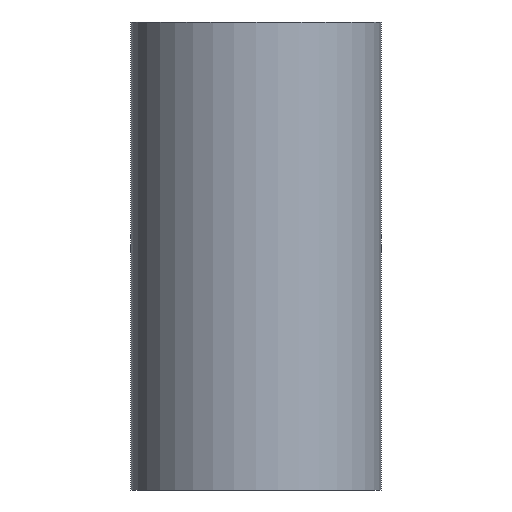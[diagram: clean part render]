
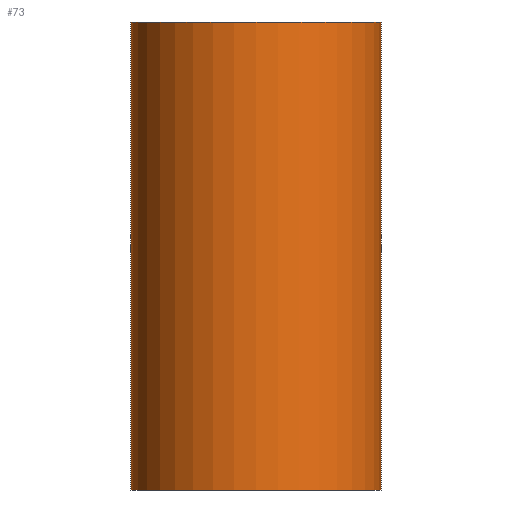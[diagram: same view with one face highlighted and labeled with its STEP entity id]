
A CAD part, front view. The second image highlights one B-rep face of the part: STEP entity #73.
In plain terms, the highlighted cylindrical face has radius 7.5 mm (diameter 15 mm), a full revolution.
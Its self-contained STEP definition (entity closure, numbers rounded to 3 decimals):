
#16=LINE('',#146,#18);
#18=VECTOR('',#126,7.5);
#20=CYLINDRICAL_SURFACE('',#101,7.5);
#25=FACE_OUTER_BOUND('',#30,.T.);
#30=EDGE_LOOP('',(#60,#61,#62,#63,#64,#65));
#33=CIRCLE('',#96,7.5);
#34=CIRCLE('',#97,7.5);
#37=CIRCLE('',#102,7.5);
#38=CIRCLE('',#103,7.5);
#39=VERTEX_POINT('',#131);
#40=VERTEX_POINT('',#132);
#43=VERTEX_POINT('',#142);
#44=VERTEX_POINT('',#143);
#45=EDGE_CURVE('',#39,#40,#33,.T.);
#46=EDGE_CURVE('',#40,#39,#34,.T.);
#50=EDGE_CURVE('',#43,#44,#37,.T.);
#51=EDGE_CURVE('',#44,#43,#38,.T.);
#52=EDGE_CURVE('',#44,#40,#16,.T.);
#60=ORIENTED_EDGE('',*,*,#50,.F.);
#61=ORIENTED_EDGE('',*,*,#51,.F.);
#62=ORIENTED_EDGE('',*,*,#52,.T.);
#63=ORIENTED_EDGE('',*,*,#45,.F.);
#64=ORIENTED_EDGE('',*,*,#46,.F.);
#65=ORIENTED_EDGE('',*,*,#52,.F.);
#73=ADVANCED_FACE('',(#25),#20,.T.);
#96=AXIS2_PLACEMENT_3D('',#133,#109,#110);
#97=AXIS2_PLACEMENT_3D('',#134,#111,#112);
#101=AXIS2_PLACEMENT_3D('',#141,#120,#121);
#102=AXIS2_PLACEMENT_3D('',#144,#122,#123);
#103=AXIS2_PLACEMENT_3D('',#145,#124,#125);
#109=DIRECTION('center_axis',(0.,0.,-1.));
#110=DIRECTION('ref_axis',(1.,0.,0.));
#111=DIRECTION('center_axis',(0.,0.,-1.));
#112=DIRECTION('ref_axis',(1.,0.,0.));
#120=DIRECTION('center_axis',(0.,0.,1.));
#121=DIRECTION('ref_axis',(1.,0.,0.));
#122=DIRECTION('center_axis',(0.,0.,1.));
#123=DIRECTION('ref_axis',(1.,0.,0.));
#124=DIRECTION('center_axis',(0.,0.,1.));
#125=DIRECTION('ref_axis',(1.,0.,0.));
#126=DIRECTION('',(0.,0.,-1.));
#131=CARTESIAN_POINT('',(7.5,0.,-14.));
#132=CARTESIAN_POINT('',(-7.5,0.,-14.));
#133=CARTESIAN_POINT('Origin',(0.,0.,-14.));
#134=CARTESIAN_POINT('Origin',(0.,0.,-14.));
#141=CARTESIAN_POINT('Origin',(0.,0.,0.));
#142=CARTESIAN_POINT('',(7.5,0.,14.));
#143=CARTESIAN_POINT('',(-7.5,0.,14.));
#144=CARTESIAN_POINT('Origin',(0.,0.,14.));
#145=CARTESIAN_POINT('Origin',(0.,0.,14.));
#146=CARTESIAN_POINT('',(-7.5,0.,0.));
